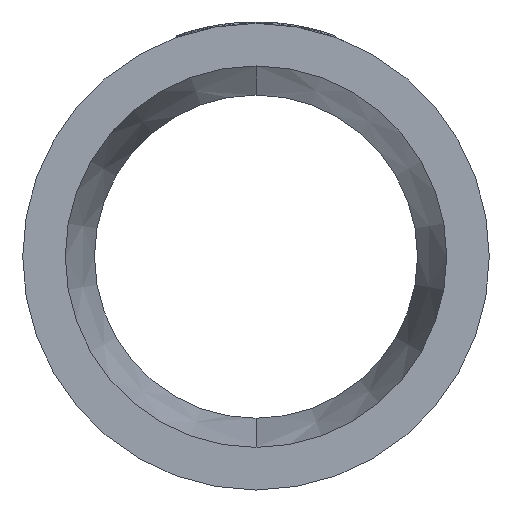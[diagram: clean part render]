
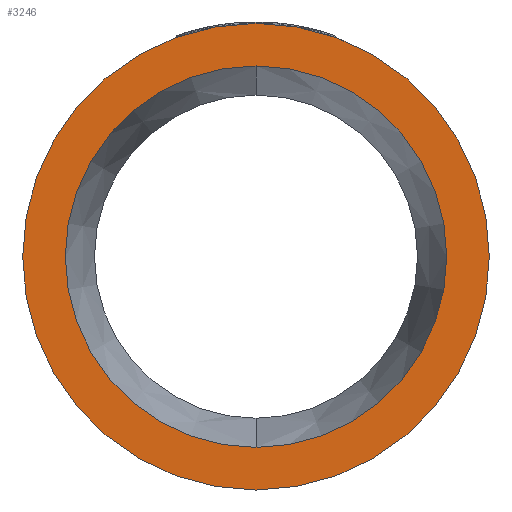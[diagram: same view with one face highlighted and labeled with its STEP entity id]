
A CAD part, left-side view. The second image highlights one B-rep face of the part: STEP entity #3246.
In plain terms, the highlighted planar face has unit normal (-1, 0, 0).
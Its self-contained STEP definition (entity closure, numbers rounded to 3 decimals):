
#121 = AXIS2_PLACEMENT_3D ( 'NONE', #2411, #774, #2692 ) ;
#163 = CARTESIAN_POINT ( 'NONE',  ( 0., 0., -65.4 ) ) ;
#234 = DIRECTION ( 'NONE',  ( -1., 0., 0. ) ) ;
#363 = VERTEX_POINT ( 'NONE', #1934 ) ;
#482 = EDGE_CURVE ( 'NONE', #363, #3104, #1776, .T. ) ;
#615 = CARTESIAN_POINT ( 'NONE',  ( 0., 0., 0. ) ) ;
#774 = DIRECTION ( 'NONE',  ( -1., 0., 0. ) ) ;
#888 = DIRECTION ( 'NONE',  ( 0., 0., 1. ) ) ;
#910 = VERTEX_POINT ( 'NONE', #163 ) ;
#936 = EDGE_CURVE ( 'NONE', #910, #970, #2516, .T. ) ;
#940 = FACE_BOUND ( 'NONE', #1851, .T. ) ;
#970 = VERTEX_POINT ( 'NONE', #1053 ) ;
#981 = AXIS2_PLACEMENT_3D ( 'NONE', #993, #2921, #1271 ) ;
#993 = CARTESIAN_POINT ( 'NONE',  ( 0., 0., 0. ) ) ;
#1053 = CARTESIAN_POINT ( 'NONE',  ( 0., 0., 65.4 ) ) ;
#1131 = EDGE_LOOP ( 'NONE', ( #2434, #3058 ) ) ;
#1135 = ORIENTED_EDGE ( 'NONE', *, *, #1551, .F. ) ;
#1138 = ORIENTED_EDGE ( 'NONE', *, *, #936, .F. ) ;
#1271 = DIRECTION ( 'NONE',  ( 0., 0., 1. ) ) ;
#1514 = CARTESIAN_POINT ( 'NONE',  ( 0., 0., -80. ) ) ;
#1551 = EDGE_CURVE ( 'NONE', #970, #910, #3347, .T. ) ;
#1568 = DIRECTION ( 'NONE',  ( 1., 0., 0. ) ) ;
#1576 = FACE_OUTER_BOUND ( 'NONE', #1131, .T. ) ;
#1579 = AXIS2_PLACEMENT_3D ( 'NONE', #1859, #234, #2119 ) ;
#1776 = CIRCLE ( 'NONE', #2581, 80. ) ;
#1851 = EDGE_LOOP ( 'NONE', ( #1135, #1138 ) ) ;
#1859 = CARTESIAN_POINT ( 'NONE',  ( 0., 0., 0. ) ) ;
#1934 = CARTESIAN_POINT ( 'NONE',  ( 0., 0., 80. ) ) ;
#1945 = CIRCLE ( 'NONE', #981, 80. ) ;
#2101 = PLANE ( 'NONE',  #3382 ) ;
#2119 = DIRECTION ( 'NONE',  ( 0., 0., 1. ) ) ;
#2411 = CARTESIAN_POINT ( 'NONE',  ( 0., 0., 0. ) ) ;
#2434 = ORIENTED_EDGE ( 'NONE', *, *, #482, .T. ) ;
#2516 = CIRCLE ( 'NONE', #121, 65.4 ) ;
#2524 = DIRECTION ( 'NONE',  ( -1., 0., 0. ) ) ;
#2581 = AXIS2_PLACEMENT_3D ( 'NONE', #615, #2524, #888 ) ;
#2692 = DIRECTION ( 'NONE',  ( 0., 0., 1. ) ) ;
#2921 = DIRECTION ( 'NONE',  ( -1., 0., 0. ) ) ;
#3058 = ORIENTED_EDGE ( 'NONE', *, *, #3201, .T. ) ;
#3104 = VERTEX_POINT ( 'NONE', #1514 ) ;
#3201 = EDGE_CURVE ( 'NONE', #3104, #363, #1945, .T. ) ;
#3216 = CARTESIAN_POINT ( 'NONE',  ( 0., 65.4, 0. ) ) ;
#3246 = ADVANCED_FACE ( 'NONE', ( #940, #1576 ), #2101, .F. ) ;
#3347 = CIRCLE ( 'NONE', #1579, 65.4 ) ;
#3382 = AXIS2_PLACEMENT_3D ( 'NONE', #3216, #1568, #3486 ) ;
#3486 = DIRECTION ( 'NONE',  ( 0., 0., -1. ) ) ;
